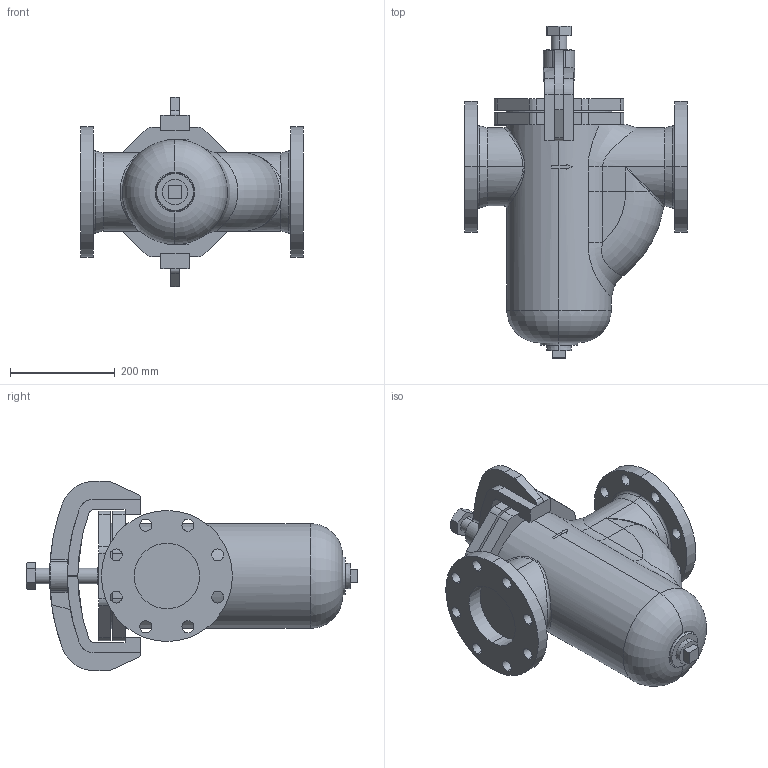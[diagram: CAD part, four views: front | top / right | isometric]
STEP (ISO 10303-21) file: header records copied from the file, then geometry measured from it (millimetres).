
FILE_DESCRIPTION (( 'STEP AP203' ), '1' );
FILE_NAME ('SU-20S 125A.STEP', '2025-12-15T02:21:47', ( '' ), ( '' ), 'SwSTEP 2.0', 'SolidWorks 2024', '' );
FILE_SCHEMA (( 'CONFIG_CONTROL_DESIGN' ));
Length unit declared in the file: millimetre
Products named in the file (4): SU-20S 125A; SU-20S Arm 125A; SU-20S Body-P 125A; SU-20S Bolt 100-150A
Assembly tree (3 placements, depth 2):
  SU-20S 125A
    SU-20S Body-P 125A
    SU-20S Arm 125A
    SU-20S Bolt 100-150A
Bounding box: 425 x 633.8 x 362 mm (x, y, z)
Volume: 22529851.9 mm3; surface area: 867437.3 mm2
Topology: 3 solids, 3 shells, 231 faces, 600 edges, 385 vertices
Faces by surface type: cylinder 101, plane 91, cone 19, bspline 7, torus 7, sphere 6
Entity records: 10098 total; most frequent: CARTESIAN_POINT 3972, DIRECTION 1211, ORIENTED_EDGE 1196, EDGE_CURVE 598, AXIS2_PLACEMENT_3D 460, VERTEX_POINT 385, LINE 291, VECTOR 291
